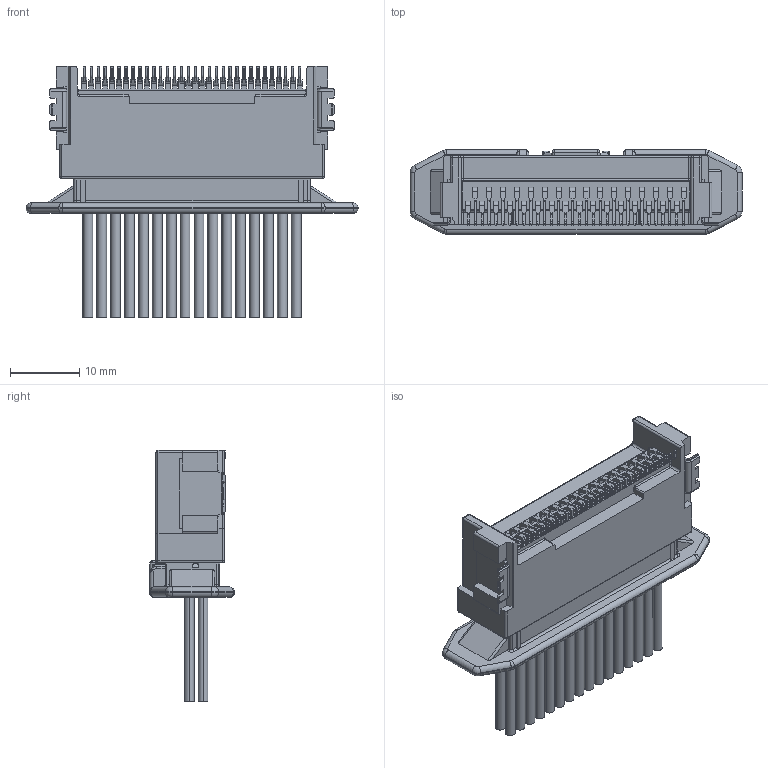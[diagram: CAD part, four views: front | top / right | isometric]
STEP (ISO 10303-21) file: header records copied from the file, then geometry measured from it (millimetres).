
FILE_DESCRIPTION (( 'STEP AP203' ), '1' );
FILE_NAME ('V0114-032_V0116-91032_ISH HORIZONTAL MATING 32P.STEP', '2025-11-21T01:12:31', ( '' ), ( '' ), 'SwSTEP 2.0', 'SolidWorks 2023', '' );
FILE_SCHEMA (( 'CONFIG_CONTROL_DESIGN' ));
Products named in the file (1): V0114-032_V0116-91032_ISH HORIZONTAL MATING 32P
Bounding box: 47.8 x 12.2 x 36.15 mm (x, y, z)
Volume: 7243.9 mm3; surface area: 5713.5 mm2
Topology: 1 solids, 1 shells, 1444 faces, 3838 edges, 2444 vertices
Faces by surface type: plane 932, cylinder 374, cone 70, torus 48, sphere 14, bspline 6
Entity records: 44719 total; most frequent: CARTESIAN_POINT 8399, ORIENTED_EDGE 7644, DIRECTION 7444, EDGE_CURVE 3822, VECTOR 2946, LINE 2946, VERTEX_POINT 2444, AXIS2_PLACEMENT_3D 2249
